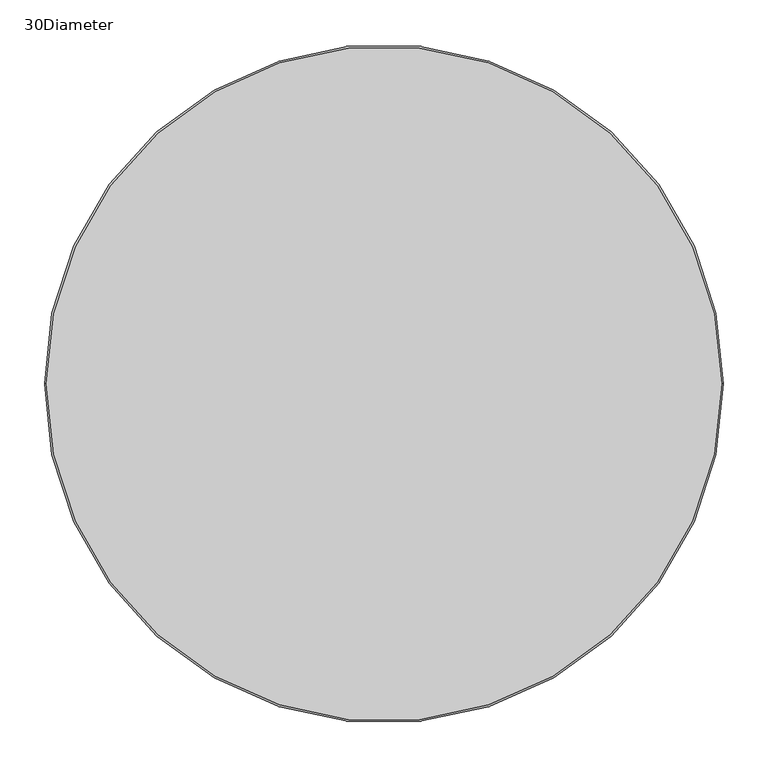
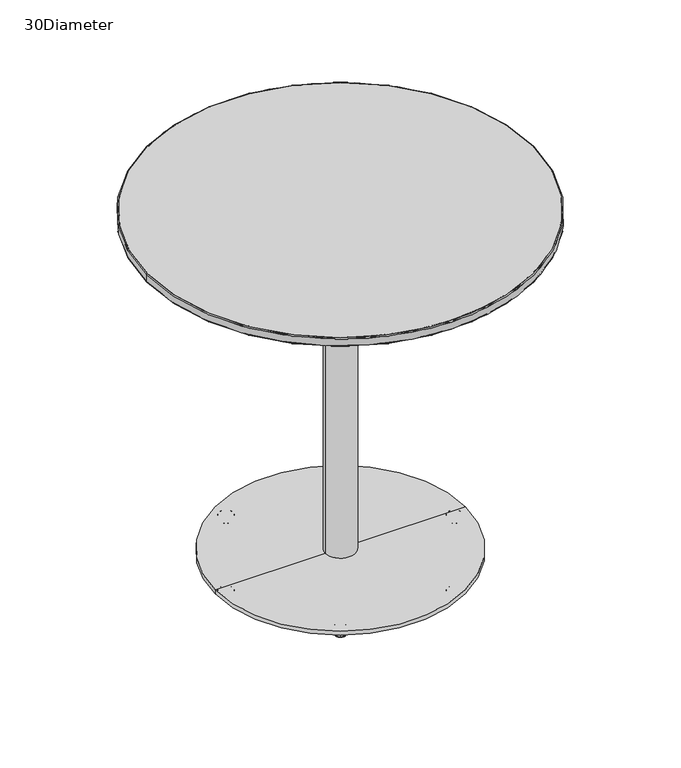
"""IFC4 building model written with IfcOpenShell, lengths in millimetres: furniture geometry, Coalesse_AM_Table_Conference_Montara650_WorkHeight_Round : 30Diameter."""

from ifc_helpers import new_model, si_unit, point, frame, origin, origin_with_axes, origin_2d, place, context, project, spatial, polyline, circle_curve, ellipse_curve, trimmed, segment, composite_curve, outline, extrude, source, transform, mapped, element, save
from ifc_brep_helpers import plane_surface, cylinder_surface, revolved_surface, advanced_brep


def furniture_30diameter_0b807904(model_context):
    return source(origin(), model_context, "Body", "SolidModel", [
        advanced_brep(
        [(-112.4946772, 194.8464965, 0.0), (-117.6867095, 203.8393602, 0.0), (-107.302645, 185.8536329, 0.0), (-118.0731448, 204.5086859, 0.5718943), (-106.9162096, 185.1843072, 0.5718943), (-119.6988534, 207.3244957, 11.2068005), (-105.290501, 182.3684973, 11.2068005), (-119.4053894, 206.8162011, 11.9999882), (-105.5839651, 182.8767919, 11.9999882), (-112.4946772, 194.8464965, 11.9999882)],
        [
            (0, 1),
            (1, 2, circle_curve(frame((-112.4946772, 194.8464965, 0.0), z_axis=(0.0, 0.0, -1.0), x_axis=(-0.5000000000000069, 0.8660254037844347, 0.0)), 10.3840645)),
            (2, 0),
            (2, 1, circle_curve(frame((-112.4946772, 194.8464965, 0.0), z_axis=(0.0, 0.0, -1.0), x_axis=(-0.5000000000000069, 0.8660254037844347, 0.0)), 10.3840645)),
            (1, 3, circle_curve(frame((-117.6867095, 203.8393602, 0.8081846), z_axis=(0.8660254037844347, 0.5000000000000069, 0.0), x_axis=(-0.5000000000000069, 0.8660254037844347, 0.0)), 0.8081846)),
            (3, 4, circle_curve(frame((-112.4946772, 194.8464965, 0.5718943), z_axis=(0.0, 0.0, -1.0), x_axis=(-0.5000000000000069, 0.8660254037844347, 0.0)), 11.1569353)),
            (4, 2, circle_curve(frame((-107.302645, 185.8536329, 0.8081846), z_axis=(0.866025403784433, 0.5000000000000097, 0.0), x_axis=(0.5000000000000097, -0.866025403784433, 0.0)), 0.8081846)),
            (4, 3, circle_curve(frame((-112.4946772, 194.8464965, 0.5718943), z_axis=(0.0, 0.0, -1.0), x_axis=(-0.5000000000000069, 0.8660254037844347, 0.0)), 11.1569353)),
            (3, 5),
            (5, 6, circle_curve(frame((-112.4946772, 194.8464965, 11.2068005), z_axis=(0.0, 0.0, -1.0), x_axis=(-0.5000000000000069, 0.8660254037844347, 0.0)), 14.4083524)),
            (6, 4),
            (6, 5, circle_curve(frame((-112.4946772, 194.8464965, 11.2068005), z_axis=(0.0, 0.0, -1.0), x_axis=(-0.5000000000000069, 0.8660254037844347, 0.0)), 14.4083524)),
            (5, 7, circle_curve(frame((-119.4053894, 206.8162011, 11.3862424), z_axis=(0.8660254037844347, 0.5000000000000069, 0.0), x_axis=(-0.5000000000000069, 0.8660254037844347, 0.0)), 0.6137458)),
            (7, 8, circle_curve(frame((-112.4946772, 194.8464965, 11.9999882), z_axis=(0.0, 0.0, -1.0), x_axis=(-0.5000000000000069, 0.8660254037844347, 0.0)), 13.8214243)),
            (8, 6, circle_curve(frame((-105.5839651, 182.8767919, 11.3862424), z_axis=(0.866025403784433, 0.5000000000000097, 0.0), x_axis=(0.5000000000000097, -0.866025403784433, 0.0)), 0.6137458)),
            (8, 7, circle_curve(frame((-112.4946772, 194.8464965, 11.9999882), z_axis=(0.0, 0.0, -1.0), x_axis=(-0.5000000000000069, 0.8660254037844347, 0.0)), 13.8214243)),
            (7, 9),
            (9, 8),
        ],
        [
            plane_surface(frame((-112.4946772, 194.8464965, 0.0), z_axis=(0.0, 0.0, -1.0), x_axis=(-0.5000000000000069, 0.8660254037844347, 0.0))),
            revolved_surface(trimmed(ellipse_curve(frame((-117.6867095, 203.8393602, 0.8081846), z_axis=(-0.8660254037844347, -0.5000000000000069, 0.0), x_axis=(-0.5000000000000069, 0.8660254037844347, 0.0)), 0.8081846, 0.8081846), [point((-118.0731448, 204.5086859, 0.5718943))], [point((-117.6867095, 203.8393602, 0.0))], True, "CARTESIAN"), (-112.4946772, 194.8464965, 12.2086845), (0.0, 0.0, -1.0)),
            revolved_surface(polyline([(-119.6988534, 207.3244957, 11.2068005), (-118.0731448, 204.5086859, 0.5718943)]), (-112.4946772, 194.8464965, 12.2086845), (0.0, 0.0, -1.0)),
            revolved_surface(trimmed(ellipse_curve(frame((-119.4053894, 206.8162011, 11.3862424), z_axis=(-0.8660254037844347, -0.5000000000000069, 0.0), x_axis=(-0.5000000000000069, 0.8660254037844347, 0.0)), 0.6137458, 0.6137458), [point((-119.4053894, 206.8162011, 11.9999882))], [point((-119.6988534, 207.3244957, 11.2068005))], True, "CARTESIAN"), (-112.4946772, 194.8464965, 12.2086845), (0.0, 0.0, -1.0)),
            plane_surface(frame((-112.4946772, 194.8464965, 11.9999882), z_axis=(0.0, 0.0, 1.0), x_axis=(-0.5000000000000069, 0.8660254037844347, 0.0))),
        ],
        [
            (0, [[1, 2, 3]]),
            (0, [[-3, 4, -1]]),
            (1, [[-2, 5, 6, 7]]),
            (1, [[-4, -7, 8, -5]]),
            (2, [[-6, 9, 10, 11]]),
            (2, [[-8, -11, 12, -9]]),
            (3, [[-10, 13, 14, 15]]),
            (3, [[-12, -15, 16, -13]]),
            (4, [[-14, 17, 18]]),
            (4, [[-16, -18, -17]]),
        ],
    ),
        advanced_brep(
        [(107.302645, -185.8536329, 0.0), (117.6867095, -203.8393602, 0.0), (112.4946772, -194.8464965, 0.0), (106.9162096, -185.1843072, 0.5718943), (118.0731448, -204.5086859, 0.5718943), (105.290501, -182.3684973, 11.2068005), (119.6988534, -207.3244957, 11.2068005), (105.5839651, -182.8767919, 11.9999882), (119.4053894, -206.8162011, 11.9999882), (112.4946772, -194.8464965, 11.9999882)],
        [
            (0, 1, circle_curve(frame((112.4946772, -194.8464965, 0.0), z_axis=(0.0, 0.0, -1.0), x_axis=(0.5000000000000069, -0.8660254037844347, 0.0)), 10.3840645)),
            (1, 2),
            (2, 0),
            (1, 0, circle_curve(frame((112.4946772, -194.8464965, 0.0), z_axis=(0.0, 0.0, -1.0), x_axis=(0.5000000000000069, -0.8660254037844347, 0.0)), 10.3840645)),
            (3, 4, circle_curve(frame((112.4946772, -194.8464965, 0.5718943), z_axis=(0.0, 0.0, -1.0), x_axis=(0.5000000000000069, -0.8660254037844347, 0.0)), 11.1569353)),
            (4, 1, circle_curve(frame((117.6867095, -203.8393602, 0.8081846), z_axis=(0.8660254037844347, 0.5000000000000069, 0.0), x_axis=(0.5000000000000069, -0.8660254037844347, 0.0)), 0.8081846)),
            (0, 3, circle_curve(frame((107.302645, -185.8536329, 0.8081846), z_axis=(0.8660254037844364, 0.5000000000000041, 0.0), x_axis=(-0.5000000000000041, 0.8660254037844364, 0.0)), 0.8081846)),
            (4, 3, circle_curve(frame((112.4946772, -194.8464965, 0.5718943), z_axis=(0.0, 0.0, -1.0), x_axis=(0.5000000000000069, -0.8660254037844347, 0.0)), 11.1569353)),
            (5, 6, circle_curve(frame((112.4946772, -194.8464965, 11.2068005), z_axis=(0.0, 0.0, -1.0), x_axis=(0.5000000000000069, -0.8660254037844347, 0.0)), 14.4083524)),
            (6, 4),
            (3, 5),
            (6, 5, circle_curve(frame((112.4946772, -194.8464965, 11.2068005), z_axis=(0.0, 0.0, -1.0), x_axis=(0.5000000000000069, -0.8660254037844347, 0.0)), 14.4083524)),
            (7, 8, circle_curve(frame((112.4946772, -194.8464965, 11.9999882), z_axis=(0.0, 0.0, -1.0), x_axis=(0.5000000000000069, -0.8660254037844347, 0.0)), 13.8214243)),
            (8, 6, circle_curve(frame((119.4053894, -206.8162011, 11.3862424), z_axis=(0.8660254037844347, 0.5000000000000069, 0.0), x_axis=(0.5000000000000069, -0.8660254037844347, 0.0)), 0.6137458)),
            (5, 7, circle_curve(frame((105.5839651, -182.8767919, 11.3862424), z_axis=(0.8660254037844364, 0.5000000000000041, 0.0), x_axis=(-0.5000000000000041, 0.8660254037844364, 0.0)), 0.6137458)),
            (8, 7, circle_curve(frame((112.4946772, -194.8464965, 11.9999882), z_axis=(0.0, 0.0, -1.0), x_axis=(0.5000000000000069, -0.8660254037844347, 0.0)), 13.8214243)),
            (9, 8),
            (7, 9),
        ],
        [
            plane_surface(frame((112.4946772, -194.8464965, 0.0), z_axis=(0.0, 0.0, -1.0), x_axis=(0.5000000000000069, -0.8660254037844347, 0.0))),
            revolved_surface(trimmed(ellipse_curve(frame((117.6867095, -203.8393602, 0.8081846), z_axis=(-0.8660254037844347, -0.5000000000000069, 0.0), x_axis=(0.5000000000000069, -0.8660254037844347, 0.0)), 0.8081846, 0.8081846), [point((117.6867095, -203.8393602, 0.0))], [point((118.0731448, -204.5086859, 0.5718943))], True, "CARTESIAN"), (112.4946772, -194.8464965, 12.2086845), (0.0, 0.0, 1.0)),
            revolved_surface(polyline([(118.0731448, -204.5086859, 0.5718943), (119.6988534, -207.3244957, 11.2068005)]), (112.4946772, -194.8464965, 12.2086845), (0.0, 0.0, 1.0)),
            revolved_surface(trimmed(ellipse_curve(frame((119.4053894, -206.8162011, 11.3862424), z_axis=(-0.8660254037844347, -0.5000000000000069, 0.0), x_axis=(0.5000000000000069, -0.8660254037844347, 0.0)), 0.6137458, 0.6137458), [point((119.6988534, -207.3244957, 11.2068005))], [point((119.4053894, -206.8162011, 11.9999882))], True, "CARTESIAN"), (112.4946772, -194.8464965, 12.2086845), (0.0, 0.0, 1.0)),
            plane_surface(frame((112.4946772, -194.8464965, 11.9999882), z_axis=(0.0, 0.0, 1.0), x_axis=(0.5000000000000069, -0.8660254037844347, 0.0))),
        ],
        [
            (0, [[1, 2, 3]]),
            (0, [[4, -3, -2]]),
            (1, [[5, 6, -1, 7]]),
            (1, [[8, -7, -4, -6]]),
            (2, [[9, 10, -5, 11]]),
            (2, [[12, -11, -8, -10]]),
            (3, [[13, 14, -9, 15]]),
            (3, [[16, -15, -12, -14]]),
            (4, [[17, -13, 18]]),
            (4, [[-18, -16, -17]]),
        ],
    ),
        advanced_brep(
        [(107.302645, 185.8536329, 0.0), (117.6867095, 203.8393602, 0.0), (112.4946772, 194.8464965, 0.0), (106.9162096, 185.1843072, 0.5718943), (118.0731448, 204.5086859, 0.5718943), (105.290501, 182.3684973, 11.2068005), (119.6988534, 207.3244957, 11.2068005), (105.5839651, 182.8767919, 11.9999882), (119.4053894, 206.8162011, 11.9999882), (112.4946772, 194.8464965, 11.9999882)],
        [
            (0, 1, circle_curve(frame((112.4946772, 194.8464965, 0.0), z_axis=(0.0, 0.0, -1.0), x_axis=(0.5000000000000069, 0.8660254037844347, 0.0)), 10.3840645)),
            (1, 2),
            (2, 0),
            (1, 0, circle_curve(frame((112.4946772, 194.8464965, 0.0), z_axis=(0.0, 0.0, -1.0), x_axis=(0.5000000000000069, 0.8660254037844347, 0.0)), 10.3840645)),
            (3, 4, circle_curve(frame((112.4946772, 194.8464965, 0.5718943), z_axis=(0.0, 0.0, -1.0), x_axis=(0.5000000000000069, 0.8660254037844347, 0.0)), 11.1569353)),
            (4, 1, circle_curve(frame((117.6867095, 203.8393602, 0.8081846), z_axis=(-0.8660254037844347, 0.5000000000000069, 0.0), x_axis=(0.5000000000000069, 0.8660254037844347, 0.0)), 0.8081846)),
            (0, 3, circle_curve(frame((107.302645, 185.8536329, 0.8081846), z_axis=(-0.866025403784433, 0.5000000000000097, 0.0), x_axis=(-0.5000000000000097, -0.866025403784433, 0.0)), 0.8081846)),
            (4, 3, circle_curve(frame((112.4946772, 194.8464965, 0.5718943), z_axis=(0.0, 0.0, -1.0), x_axis=(0.5000000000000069, 0.8660254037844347, 0.0)), 11.1569353)),
            (5, 6, circle_curve(frame((112.4946772, 194.8464965, 11.2068005), z_axis=(0.0, 0.0, -1.0), x_axis=(0.5000000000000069, 0.8660254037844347, 0.0)), 14.4083524)),
            (6, 4),
            (3, 5),
            (6, 5, circle_curve(frame((112.4946772, 194.8464965, 11.2068005), z_axis=(0.0, 0.0, -1.0), x_axis=(0.5000000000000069, 0.8660254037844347, 0.0)), 14.4083524)),
            (7, 8, circle_curve(frame((112.4946772, 194.8464965, 11.9999882), z_axis=(0.0, 0.0, -1.0), x_axis=(0.5000000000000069, 0.8660254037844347, 0.0)), 13.8214243)),
            (8, 6, circle_curve(frame((119.4053894, 206.8162011, 11.3862424), z_axis=(-0.8660254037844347, 0.5000000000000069, 0.0), x_axis=(0.5000000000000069, 0.8660254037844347, 0.0)), 0.6137458)),
            (5, 7, circle_curve(frame((105.5839651, 182.8767919, 11.3862424), z_axis=(-0.866025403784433, 0.5000000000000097, 0.0), x_axis=(-0.5000000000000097, -0.866025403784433, 0.0)), 0.6137458)),
            (8, 7, circle_curve(frame((112.4946772, 194.8464965, 11.9999882), z_axis=(0.0, 0.0, -1.0), x_axis=(0.5000000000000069, 0.8660254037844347, 0.0)), 13.8214243)),
            (9, 8),
            (7, 9),
        ],
        [
            plane_surface(frame((112.4946772, 194.8464965, 0.0), z_axis=(0.0, 0.0, -1.0), x_axis=(0.5000000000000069, 0.8660254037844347, 0.0))),
            revolved_surface(trimmed(ellipse_curve(frame((117.6867095, 203.8393602, 0.8081846), z_axis=(0.8660254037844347, -0.5000000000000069, 0.0), x_axis=(0.5000000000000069, 0.8660254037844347, 0.0)), 0.8081846, 0.8081846), [point((117.6867095, 203.8393602, 0.0))], [point((118.0731448, 204.5086859, 0.5718943))], True, "CARTESIAN"), (112.4946772, 194.8464965, 12.2086845), (0.0, 0.0, 1.0)),
            revolved_surface(polyline([(118.0731448, 204.5086859, 0.5718943), (119.6988534, 207.3244957, 11.2068005)]), (112.4946772, 194.8464965, 12.2086845), (0.0, 0.0, 1.0)),
            revolved_surface(trimmed(ellipse_curve(frame((119.4053894, 206.8162011, 11.3862424), z_axis=(0.8660254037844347, -0.5000000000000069, 0.0), x_axis=(0.5000000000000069, 0.8660254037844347, 0.0)), 0.6137458, 0.6137458), [point((119.6988534, 207.3244957, 11.2068005))], [point((119.4053894, 206.8162011, 11.9999882))], True, "CARTESIAN"), (112.4946772, 194.8464965, 12.2086845), (0.0, 0.0, 1.0)),
            plane_surface(frame((112.4946772, 194.8464965, 11.9999882), z_axis=(0.0, 0.0, 1.0), x_axis=(0.5000000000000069, 0.8660254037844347, 0.0))),
        ],
        [
            (0, [[1, 2, 3]]),
            (0, [[4, -3, -2]]),
            (1, [[5, 6, -1, 7]]),
            (1, [[8, -7, -4, -6]]),
            (2, [[9, 10, -5, 11]]),
            (2, [[12, -11, -8, -10]]),
            (3, [[13, 14, -9, 15]]),
            (3, [[16, -15, -12, -14]]),
            (4, [[17, -13, 18]]),
            (4, [[-18, -16, -17]]),
        ],
    ),
        advanced_brep(
        [(-112.4946772, -194.8464965, 0.0), (-117.6867095, -203.8393602, 0.0), (-107.302645, -185.8536329, 0.0), (-118.0731448, -204.5086859, 0.5718943), (-106.9162096, -185.1843072, 0.5718943), (-119.6988534, -207.3244957, 11.2068005), (-105.290501, -182.3684973, 11.2068005), (-119.4053894, -206.8162011, 11.9999882), (-105.5839651, -182.8767919, 11.9999882), (-112.4946772, -194.8464965, 11.9999882)],
        [
            (0, 1),
            (1, 2, circle_curve(frame((-112.4946772, -194.8464965, 0.0), z_axis=(0.0, 0.0, -1.0), x_axis=(-0.5000000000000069, -0.8660254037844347, 0.0)), 10.3840645)),
            (2, 0),
            (2, 1, circle_curve(frame((-112.4946772, -194.8464965, 0.0), z_axis=(0.0, 0.0, -1.0), x_axis=(-0.5000000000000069, -0.8660254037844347, 0.0)), 10.3840645)),
            (1, 3, circle_curve(frame((-117.6867095, -203.8393602, 0.8081846), z_axis=(-0.8660254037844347, 0.5000000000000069, 0.0), x_axis=(-0.5000000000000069, -0.8660254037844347, 0.0)), 0.8081846)),
            (3, 4, circle_curve(frame((-112.4946772, -194.8464965, 0.5718943), z_axis=(0.0, 0.0, -1.0), x_axis=(-0.5000000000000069, -0.8660254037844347, 0.0)), 11.1569353)),
            (4, 2, circle_curve(frame((-107.302645, -185.8536329, 0.8081846), z_axis=(-0.8660254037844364, 0.5000000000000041, 0.0), x_axis=(0.5000000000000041, 0.8660254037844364, 0.0)), 0.8081846)),
            (4, 3, circle_curve(frame((-112.4946772, -194.8464965, 0.5718943), z_axis=(0.0, 0.0, -1.0), x_axis=(-0.5000000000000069, -0.8660254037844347, 0.0)), 11.1569353)),
            (3, 5),
            (5, 6, circle_curve(frame((-112.4946772, -194.8464965, 11.2068005), z_axis=(0.0, 0.0, -1.0), x_axis=(-0.5000000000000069, -0.8660254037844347, 0.0)), 14.4083524)),
            (6, 4),
            (6, 5, circle_curve(frame((-112.4946772, -194.8464965, 11.2068005), z_axis=(0.0, 0.0, -1.0), x_axis=(-0.5000000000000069, -0.8660254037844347, 0.0)), 14.4083524)),
            (5, 7, circle_curve(frame((-119.4053894, -206.8162011, 11.3862424), z_axis=(-0.8660254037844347, 0.5000000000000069, 0.0), x_axis=(-0.5000000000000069, -0.8660254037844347, 0.0)), 0.6137458)),
            (7, 8, circle_curve(frame((-112.4946772, -194.8464965, 11.9999882), z_axis=(0.0, 0.0, -1.0), x_axis=(-0.5000000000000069, -0.8660254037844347, 0.0)), 13.8214243)),
            (8, 6, circle_curve(frame((-105.5839651, -182.8767919, 11.3862424), z_axis=(-0.8660254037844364, 0.5000000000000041, 0.0), x_axis=(0.5000000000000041, 0.8660254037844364, 0.0)), 0.6137458)),
            (8, 7, circle_curve(frame((-112.4946772, -194.8464965, 11.9999882), z_axis=(0.0, 0.0, -1.0), x_axis=(-0.5000000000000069, -0.8660254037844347, 0.0)), 13.8214243)),
            (7, 9),
            (9, 8),
        ],
        [
            plane_surface(frame((-112.4946772, -194.8464965, 0.0), z_axis=(0.0, 0.0, -1.0), x_axis=(-0.5000000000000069, -0.8660254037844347, 0.0))),
            revolved_surface(trimmed(ellipse_curve(frame((-117.6867095, -203.8393602, 0.8081846), z_axis=(0.8660254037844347, -0.5000000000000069, 0.0), x_axis=(-0.5000000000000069, -0.8660254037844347, 0.0)), 0.8081846, 0.8081846), [point((-118.0731448, -204.5086859, 0.5718943))], [point((-117.6867095, -203.8393602, 0.0))], True, "CARTESIAN"), (-112.4946772, -194.8464965, 12.2086845), (0.0, 0.0, -1.0)),
            revolved_surface(polyline([(-119.6988534, -207.3244957, 11.2068005), (-118.0731448, -204.5086859, 0.5718943)]), (-112.4946772, -194.8464965, 12.2086845), (0.0, 0.0, -1.0)),
            revolved_surface(trimmed(ellipse_curve(frame((-119.4053894, -206.8162011, 11.3862424), z_axis=(0.8660254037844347, -0.5000000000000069, 0.0), x_axis=(-0.5000000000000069, -0.8660254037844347, 0.0)), 0.6137458, 0.6137458), [point((-119.4053894, -206.8162011, 11.9999882))], [point((-119.6988534, -207.3244957, 11.2068005))], True, "CARTESIAN"), (-112.4946772, -194.8464965, 12.2086845), (0.0, 0.0, -1.0)),
            plane_surface(frame((-112.4946772, -194.8464965, 11.9999882), z_axis=(0.0, 0.0, 1.0), x_axis=(-0.5000000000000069, -0.8660254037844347, 0.0))),
        ],
        [
            (0, [[1, 2, 3]]),
            (0, [[-3, 4, -1]]),
            (1, [[-2, 5, 6, 7]]),
            (1, [[-4, -7, 8, -5]]),
            (2, [[-6, 9, 10, 11]]),
            (2, [[-8, -11, 12, -9]]),
            (3, [[-10, 13, 14, 15]]),
            (3, [[-12, -15, 16, -13]]),
            (4, [[-14, 17, 18]]),
            (4, [[-16, -18, -17]]),
        ],
    ),
        advanced_brep(
        [(214.6052899, 0.0, 0.0), (235.3734189, 0.0, 0.0), (224.9893544, 0.0, 0.0), (213.8324192, 0.0, 0.5718943), (236.1462897, 0.0, 0.5718943), (210.5810021, 0.0, 11.2068005), (239.3977068, 0.0, 11.2068005), (211.1679301, 0.0, 11.9999882), (238.8107788, 0.0, 11.9999882), (224.9893544, 0.0, 11.9999882)],
        [
            (0, 1, circle_curve(frame((224.9893544, 0.0, 0.0), z_axis=(0.0, 0.0, -1.0), x_axis=(1.0, 0.0, 0.0)), 10.3840645)),
            (1, 2),
            (2, 0),
            (1, 0, circle_curve(frame((224.9893544, 0.0, 0.0), z_axis=(0.0, 0.0, -1.0), x_axis=(1.0, 0.0, 0.0)), 10.3840645)),
            (3, 4, circle_curve(frame((224.9893544, 0.0, 0.5718943), z_axis=(0.0, 0.0, -1.0), x_axis=(1.0, 0.0, 0.0)), 11.1569353)),
            (4, 1, circle_curve(frame((235.3734189, 0.0, 0.8081846), z_axis=(0.0, 1.0, 0.0), x_axis=(1.0, 0.0, 0.0)), 0.8081846)),
            (0, 3, circle_curve(frame((214.6052899, 0.0, 0.8081846), z_axis=(0.0, 1.0, 0.0), x_axis=(-1.0, 0.0, 0.0)), 0.8081846)),
            (4, 3, circle_curve(frame((224.9893544, 0.0, 0.5718943), z_axis=(0.0, 0.0, -1.0), x_axis=(1.0, 0.0, 0.0)), 11.1569353)),
            (5, 6, circle_curve(frame((224.9893544, 0.0, 11.2068005), z_axis=(0.0, 0.0, -1.0), x_axis=(1.0, 0.0, 0.0)), 14.4083524)),
            (6, 4),
            (3, 5),
            (6, 5, circle_curve(frame((224.9893544, 0.0, 11.2068005), z_axis=(0.0, 0.0, -1.0), x_axis=(1.0, 0.0, 0.0)), 14.4083524)),
            (7, 8, circle_curve(frame((224.9893544, 0.0, 11.9999882), z_axis=(0.0, 0.0, -1.0), x_axis=(1.0, 0.0, 0.0)), 13.8214243)),
            (8, 6, circle_curve(frame((238.8107788, 0.0, 11.3862424), z_axis=(0.0, 1.0, 0.0), x_axis=(1.0, 0.0, 0.0)), 0.6137458)),
            (5, 7, circle_curve(frame((211.1679301, 0.0, 11.3862424), z_axis=(0.0, 1.0, 0.0), x_axis=(-1.0, 0.0, 0.0)), 0.6137458)),
            (8, 7, circle_curve(frame((224.9893544, 0.0, 11.9999882), z_axis=(0.0, 0.0, -1.0), x_axis=(1.0, 0.0, 0.0)), 13.8214243)),
            (9, 8),
            (7, 9),
        ],
        [
            plane_surface(frame((224.9893544, 0.0, 0.0), z_axis=(0.0, 0.0, -1.0), x_axis=(1.0, 0.0, 0.0))),
            revolved_surface(trimmed(ellipse_curve(frame((235.3734189, 0.0, 0.8081846), z_axis=(0.0, -1.0, 0.0), x_axis=(1.0, 0.0, 0.0)), 0.8081846, 0.8081846), [point((235.3734189, 0.0, 0.0))], [point((236.1462897, 0.0, 0.5718943))], True, "CARTESIAN"), (224.9893544, 0.0, 12.2086845), (0.0, 0.0, 1.0)),
            revolved_surface(polyline([(236.1462897, 0.0, 0.5718943), (239.3977068, 0.0, 11.2068005)]), (224.9893544, 0.0, 12.2086845), (0.0, 0.0, 1.0)),
            revolved_surface(trimmed(ellipse_curve(frame((238.8107788, 0.0, 11.3862424), z_axis=(0.0, -1.0, 0.0), x_axis=(1.0, 0.0, 0.0)), 0.6137458, 0.6137458), [point((239.3977068, 0.0, 11.2068005))], [point((238.8107788, 0.0, 11.9999882))], True, "CARTESIAN"), (224.9893544, 0.0, 12.2086845), (0.0, 0.0, 1.0)),
            plane_surface(frame((224.9893544, 0.0, 11.9999882), z_axis=(0.0, 0.0, 1.0), x_axis=(1.0, 0.0, 0.0))),
        ],
        [
            (0, [[1, 2, 3]]),
            (0, [[4, -3, -2]]),
            (1, [[5, 6, -1, 7]]),
            (1, [[8, -7, -4, -6]]),
            (2, [[9, 10, -5, 11]]),
            (2, [[12, -11, -8, -10]]),
            (3, [[13, 14, -9, 15]]),
            (3, [[16, -15, -12, -14]]),
            (4, [[17, -13, 18]]),
            (4, [[-18, -16, -17]]),
        ],
    ),
        advanced_brep(
        [(-334.264, 0.0, 693.930027), (334.264, 0.0, 693.930027), (-378.968, 0.0, 706.195891), (378.968, 0.0, 706.195891)],
        [
            (0, 1, circle_curve(frame((0.0, 0.0, 693.930027), z_axis=(0.0, 0.0, -1.0), x_axis=(-1.0, 0.0, 0.0)), 334.264)),
            (1, 0, circle_curve(frame((0.0, 0.0, 693.930027), z_axis=(0.0, 0.0, -1.0), x_axis=(1.0, 0.0, 0.0)), 334.264)),
            (2, 3, circle_curve(frame((0.0, 0.0, 706.195891), z_axis=(0.0, 0.0, 1.0), x_axis=(1.0, 0.0, 0.0)), 378.968)),
            (3, 2, circle_curve(frame((0.0, 0.0, 706.195891), z_axis=(0.0, 0.0, 1.0), x_axis=(-1.0, 0.0, 0.0)), 378.968)),
            (2, 0),
            (1, 3),
        ],
        [
            plane_surface(frame((0.0, 0.0, 693.930027), z_axis=(0.0, 0.0, -1.0), x_axis=(0.0, -1.0, 0.0))),
            plane_surface(frame((0.0, 0.0, 706.195891), z_axis=(0.0, 0.0, 1.0), x_axis=(0.0, -1.0, 0.0))),
            revolved_surface(polyline([(334.26399988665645, 0.0, 693.930027), (378.968, 0.0, 706.195891)]), (0.0, 0.0, 602.2148169), (0.0, 0.0, 1.0)),
            revolved_surface(polyline([(-334.26399988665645, 0.0, 693.930027), (-378.968, 0.0, 706.195891)]), (0.0, 0.0, 602.2148169), (0.0, 0.0, 1.0)),
        ],
        [
            (0, [[1, 2]]),
            (1, [[3, 4]]),
            (2, [[-3, 5, -2, 6]]),
            (3, [[-4, -6, -1, -5]]),
        ],
    ),
        extrude(outline(composite_curve([segment(trimmed(circle_curve(origin_2d(), 378.968), [point((-378.968, 0.0))], [point((378.968, 0.0))], False, "CARTESIAN"), True, "CONTINUOUS"), segment(trimmed(circle_curve(origin_2d(), 378.968), [point((378.968, 0.0))], [point((-378.968, 0.0))], False, "CARTESIAN"), True, "CONTINUOUS")], self_intersect=False)), frame((0.0, 0.0, 706.195891), z_axis=(0.0, 0.0, 1.0), x_axis=(1.0, 0.0, 0.0)), (0.0, 0.0, 1.0), 17.704109),
        advanced_brep(
        [(-224.9893544, 0.0, 0.0), (-235.3734189, 0.0, 0.0), (-214.6052899, 0.0, 0.0), (-236.1462897, 0.0, 0.5718943), (-213.8324192, 0.0, 0.5718943), (-239.3977068, 0.0, 11.2068005), (-210.5810021, 0.0, 11.2068005), (-238.8107788, 0.0, 11.9999882), (-211.1679301, 0.0, 11.9999882), (-224.9893544, 0.0, 11.9999882)],
        [
            (0, 1),
            (1, 2, circle_curve(frame((-224.9893544, 0.0, 0.0), z_axis=(0.0, 0.0, -1.0), x_axis=(-1.0, 0.0, 0.0)), 10.3840645)),
            (2, 0),
            (2, 1, circle_curve(frame((-224.9893544, 0.0, 0.0), z_axis=(0.0, 0.0, -1.0), x_axis=(-1.0, 0.0, 0.0)), 10.3840645)),
            (1, 3, circle_curve(frame((-235.3734189, 0.0, 0.8081846), z_axis=(0.0, 1.0, 0.0), x_axis=(-1.0, 0.0, 0.0)), 0.8081846)),
            (3, 4, circle_curve(frame((-224.9893544, 0.0, 0.5718943), z_axis=(0.0, 0.0, -1.0), x_axis=(-1.0, 0.0, 0.0)), 11.1569353)),
            (4, 2, circle_curve(frame((-214.6052899, 0.0, 0.8081846), z_axis=(0.0, 1.0, 0.0), x_axis=(1.0, 0.0, 0.0)), 0.8081846)),
            (4, 3, circle_curve(frame((-224.9893544, 0.0, 0.5718943), z_axis=(0.0, 0.0, -1.0), x_axis=(-1.0, 0.0, 0.0)), 11.1569353)),
            (3, 5),
            (5, 6, circle_curve(frame((-224.9893544, 0.0, 11.2068005), z_axis=(0.0, 0.0, -1.0), x_axis=(-1.0, 0.0, 0.0)), 14.4083524)),
            (6, 4),
            (6, 5, circle_curve(frame((-224.9893544, 0.0, 11.2068005), z_axis=(0.0, 0.0, -1.0), x_axis=(-1.0, 0.0, 0.0)), 14.4083524)),
            (5, 7, circle_curve(frame((-238.8107788, 0.0, 11.3862424), z_axis=(0.0, 1.0, 0.0), x_axis=(-1.0, 0.0, 0.0)), 0.6137458)),
            (7, 8, circle_curve(frame((-224.9893544, 0.0, 11.9999882), z_axis=(0.0, 0.0, -1.0), x_axis=(-1.0, 0.0, 0.0)), 13.8214243)),
            (8, 6, circle_curve(frame((-211.1679301, 0.0, 11.3862424), z_axis=(0.0, 1.0, 0.0), x_axis=(1.0, 0.0, 0.0)), 0.6137458)),
            (8, 7, circle_curve(frame((-224.9893544, 0.0, 11.9999882), z_axis=(0.0, 0.0, -1.0), x_axis=(-1.0, 0.0, 0.0)), 13.8214243)),
            (7, 9),
            (9, 8),
        ],
        [
            plane_surface(frame((-224.9893544, 0.0, 0.0), z_axis=(0.0, 0.0, -1.0), x_axis=(-1.0, 0.0, 0.0))),
            revolved_surface(trimmed(ellipse_curve(frame((-235.3734189, 0.0, 0.8081846), z_axis=(0.0, -1.0, 0.0), x_axis=(-1.0, 0.0, 0.0)), 0.8081846, 0.8081846), [point((-236.1462897, 0.0, 0.5718943))], [point((-235.3734189, 0.0, 0.0))], True, "CARTESIAN"), (-224.9893544, 0.0, 12.2086845), (0.0, 0.0, -1.0)),
            revolved_surface(polyline([(-239.3977068, 0.0, 11.2068005), (-236.1462897, 0.0, 0.5718943)]), (-224.9893544, 0.0, 12.2086845), (0.0, 0.0, -1.0)),
            revolved_surface(trimmed(ellipse_curve(frame((-238.8107788, 0.0, 11.3862424), z_axis=(0.0, -1.0, 0.0), x_axis=(-1.0, 0.0, 0.0)), 0.6137458, 0.6137458), [point((-238.8107788, 0.0, 11.9999882))], [point((-239.3977068, 0.0, 11.2068005))], True, "CARTESIAN"), (-224.9893544, 0.0, 12.2086845), (0.0, 0.0, -1.0)),
            plane_surface(frame((-224.9893544, 0.0, 11.9999882), z_axis=(0.0, 0.0, 1.0), x_axis=(-1.0, 0.0, 0.0))),
        ],
        [
            (0, [[1, 2, 3]]),
            (0, [[-3, 4, -1]]),
            (1, [[-2, 5, 6, 7]]),
            (1, [[-4, -7, 8, -5]]),
            (2, [[-6, 9, 10, 11]]),
            (2, [[-8, -11, 12, -9]]),
            (3, [[-10, 13, 14, 15]]),
            (3, [[-12, -15, 16, -13]]),
            (4, [[-14, 17, 18]]),
            (4, [[-16, -18, -17]]),
        ],
    ),
        advanced_brep(
        [(381.0438665, 0.0, 708.1278467), (-381.0438665, 0.0, 708.1278467), (-378.968, 0.0, 706.195891), (378.968, 0.0, 706.195891), (381.0438665, 0.0, 721.8999283), (-381.0438665, 0.0, 721.8999283), (378.968, 0.0, 723.9), (-378.968, 0.0, 723.9)],
        [
            (0, 1, circle_curve(frame((0.0, 0.0, 708.1278467), z_axis=(0.0, 0.0, -1.0), x_axis=(-1.0, 0.0, 0.0)), 381.0438665)),
            (1, 2, circle_curve(frame((-379.1069224, 0.0, 708.1278467), z_axis=(0.0, -1.0, 0.0), x_axis=(1.0, 0.0, 0.0)), 1.9369441)),
            (2, 3, circle_curve(frame((0.0, 0.0, 706.195891), z_axis=(0.0, 0.0, 1.0), x_axis=(-1.0, 0.0, 0.0)), 378.968)),
            (3, 0, circle_curve(frame((379.1069224, 0.0, 708.1278467), z_axis=(0.0, -1.0, 0.0), x_axis=(-1.0, 0.0, 0.0)), 1.9369441)),
            (4, 5, circle_curve(frame((0.0, 0.0, 721.8999283), z_axis=(0.0, 0.0, -1.0), x_axis=(-1.0, 0.0, 0.0)), 381.0438665)),
            (5, 1),
            (0, 4),
            (6, 7, circle_curve(frame((0.0, 0.0, 723.9), z_axis=(0.0, 0.0, -1.0), x_axis=(-1.0, 0.0, 0.0)), 378.968)),
            (7, 5, circle_curve(frame((-379.0424111, 0.0, 721.8999283), z_axis=(0.0, -1.0, 0.0), x_axis=(1.0, 0.0, 0.0)), 2.0014554)),
            (4, 6, circle_curve(frame((379.0424111, 0.0, 721.8999283), z_axis=(0.0, -1.0, 0.0), x_axis=(-1.0, 0.0, 0.0)), 2.0014554)),
            (2, 7),
            (6, 3),
            (1, 0, circle_curve(frame((0.0, 0.0, 708.1278467), z_axis=(0.0, 0.0, -1.0), x_axis=(1.0, 0.0, 0.0)), 381.0438665)),
            (3, 2, circle_curve(frame((0.0, 0.0, 706.195891), z_axis=(0.0, 0.0, 1.0), x_axis=(1.0, 0.0, 0.0)), 378.968)),
            (5, 4, circle_curve(frame((0.0, 0.0, 721.8999283), z_axis=(0.0, 0.0, -1.0), x_axis=(1.0, 0.0, 0.0)), 381.0438665)),
            (7, 6, circle_curve(frame((0.0, 0.0, 723.9), z_axis=(0.0, 0.0, -1.0), x_axis=(1.0, 0.0, 0.0)), 378.968)),
        ],
        [
            revolved_surface(trimmed(ellipse_curve(frame((-379.1069224, 0.0, 708.1278467), z_axis=(0.0, 1.0, 0.0), x_axis=(1.0, 0.0, 0.0)), 1.9369441, 1.9369441), [point((-378.968, 0.0, 706.195891))], [point((-381.0438665, 0.0, 708.1278467))], True, "CARTESIAN"), (0.0, 0.0, 0.0), (0.0, 0.0, 1.0)),
            cylinder_surface(frame((0.0, 0.0, 0.0), z_axis=(0.0, 0.0, 1.0), x_axis=(-1.0, 0.0, 0.0)), 381.0438665),
            revolved_surface(trimmed(ellipse_curve(frame((-379.0424111, 0.0, 721.8999283), z_axis=(0.0, 1.0, 0.0), x_axis=(1.0, 0.0, 0.0)), 2.0014554, 2.0014554), [point((-381.0438665, 0.0, 721.8999283))], [point((-378.968, 0.0, 723.9))], True, "CARTESIAN"), (0.0, 0.0, 0.0), (0.0, 0.0, 1.0)),
            revolved_surface(polyline([(-378.968, 0.0, 723.9), (-378.968, 0.0, 706.195891)]), (0.0, 0.0, 0.0), (0.0, 0.0, 1.0)),
            revolved_surface(trimmed(ellipse_curve(frame((379.1069224, 0.0, 708.1278467), z_axis=(0.0, -1.0, 0.0), x_axis=(-1.0, 0.0, 0.0)), 1.9369441, 1.9369441), [point((378.968, 0.0, 706.195891))], [point((381.0438665, 0.0, 708.1278467))], True, "CARTESIAN"), (0.0, 0.0, 0.0), (0.0, 0.0, 1.0)),
            cylinder_surface(origin_with_axes(), 381.0438665),
            revolved_surface(trimmed(ellipse_curve(frame((379.0424111, 0.0, 721.8999283), z_axis=(0.0, -1.0, 0.0), x_axis=(-1.0, 0.0, 0.0)), 2.0014554, 2.0014554), [point((381.0438665, 0.0, 721.8999283))], [point((378.968, 0.0, 723.9))], True, "CARTESIAN"), (0.0, 0.0, 0.0), (0.0, 0.0, 1.0)),
            revolved_surface(polyline([(378.968, 0.0, 723.9), (378.968, 0.0, 706.195891)]), (0.0, 0.0, 0.0), (0.0, 0.0, 1.0)),
        ],
        [
            (0, [[1, 2, 3, 4]]),
            (1, [[5, 6, -1, 7]]),
            (2, [[8, 9, -5, 10]]),
            (3, [[-3, 11, -8, 12]]),
            (4, [[13, -4, 14, -2]]),
            (5, [[15, -7, -13, -6]]),
            (6, [[16, -10, -15, -9]]),
            (7, [[-14, -12, -16, -11]]),
        ],
    ),
        advanced_brep(
        [(131.6004101, 0.0, 690.755027), (-131.6004101, 0.0, 690.755027), (-176.1626132, 0.0, 690.755027), (176.1626132, 0.0, 690.755027), (121.0488662, 0.0, 689.6460151), (-121.0488662, 0.0, 689.6460151), (48.7461809, 0.0, 674.9837029), (-48.7461809, 0.0, 674.9837029), (37.412985, 0.0, 674.9837029), (-37.412985, 0.0, 674.9837029), (29.5495828, 0.0, 19.9999965), (-29.5495828, 0.0, 19.9999965), (-29.5495828, 0.0, 686.7852036), (29.5495828, 0.0, 686.7852036), (246.3799842, 0.0, 19.9999965), (-246.3799842, 0.0, 19.9999965), (246.3799842, 0.0, 11.9999882), (-246.3799842, 0.0, 11.9999882), (0.0, 0.0, 11.9999882), (176.1626132, 0.0, 693.930027), (-176.1626132, 0.0, 693.930027), (0.0, 0.0, 693.930027), (33.3511087, 0.0, 676.4383874), (-33.3511087, 0.0, 676.4383874), (31.712334, 0.0, 686.7852036), (-31.712334, 0.0, 686.7852036)],
        [
            (0, 1, circle_curve(frame((0.0, 0.0, 690.755027), z_axis=(0.0, 0.0, 1.0), x_axis=(-1.0, 0.0, 0.0)), 131.6004101)),
            (1, 2),
            (2, 3, circle_curve(frame((0.0, 0.0, 690.755027), z_axis=(0.0, 0.0, -1.0), x_axis=(-1.0, 0.0, 0.0)), 176.1626132)),
            (3, 0),
            (1, 0, circle_curve(frame((0.0, 0.0, 690.755027), z_axis=(0.0, 0.0, 1.0), x_axis=(-1.0, 0.0, 0.0)), 131.6004101)),
            (3, 2, circle_curve(frame((0.0, 0.0, 690.755027), z_axis=(0.0, 0.0, -1.0), x_axis=(-1.0, 0.0, 0.0)), 176.1626132)),
            (4, 5, circle_curve(frame((0.0, 0.0, 689.6460151), z_axis=(0.0, 0.0, 1.0), x_axis=(-1.0, 0.0, 0.0)), 121.0488662)),
            (5, 1),
            (0, 4),
            (5, 4, circle_curve(frame((0.0, 0.0, 689.6460151), z_axis=(0.0, 0.0, 1.0), x_axis=(-1.0, 0.0, 0.0)), 121.0488662)),
            (6, 7, circle_curve(frame((0.0, 0.0, 674.9837029), z_axis=(0.0, 0.0, 1.0), x_axis=(-1.0, 0.0, 0.0)), 48.7461809)),
            (7, 5),
            (4, 6),
            (7, 6, circle_curve(frame((0.0, 0.0, 674.9837029), z_axis=(0.0, 0.0, 1.0), x_axis=(-1.0, 0.0, 0.0)), 48.7461809)),
            (8, 9, circle_curve(frame((0.0, 0.0, 674.9837029), z_axis=(0.0, 0.0, 1.0), x_axis=(-1.0, 0.0, 0.0)), 37.412985)),
            (9, 7),
            (6, 8),
            (9, 8, circle_curve(frame((0.0, 0.0, 674.9837029), z_axis=(0.0, 0.0, 1.0), x_axis=(-1.0, 0.0, 0.0)), 37.412985)),
            (10, 11, circle_curve(frame((0.0, 0.0, 19.9999965), z_axis=(0.0, 0.0, 1.0), x_axis=(-1.0, 0.0, 0.0)), 29.5495828)),
            (11, 12),
            (12, 13, circle_curve(frame((0.0, 0.0, 686.7852036), z_axis=(0.0, 0.0, -1.0), x_axis=(-1.0, 0.0, 0.0)), 29.5495828)),
            (13, 10),
            (11, 10, circle_curve(frame((0.0, 0.0, 19.9999965), z_axis=(0.0, 0.0, 1.0), x_axis=(-1.0, 0.0, 0.0)), 29.5495828)),
            (13, 12, circle_curve(frame((0.0, 0.0, 686.7852036), z_axis=(0.0, 0.0, -1.0), x_axis=(-1.0, 0.0, 0.0)), 29.5495828)),
            (14, 15, circle_curve(frame((0.0, 0.0, 19.9999965), z_axis=(0.0, 0.0, 1.0), x_axis=(-1.0, 0.0, 0.0)), 246.3799842)),
            (15, 11),
            (10, 14),
            (15, 14, circle_curve(frame((0.0, 0.0, 19.9999965), z_axis=(0.0, 0.0, 1.0), x_axis=(-1.0, 0.0, 0.0)), 246.3799842)),
            (16, 17, circle_curve(frame((0.0, 0.0, 11.9999882), z_axis=(0.0, 0.0, 1.0), x_axis=(-1.0, 0.0, 0.0)), 246.3799842)),
            (17, 15),
            (14, 16),
            (17, 16, circle_curve(frame((0.0, 0.0, 11.9999882), z_axis=(0.0, 0.0, 1.0), x_axis=(-1.0, 0.0, 0.0)), 246.3799842)),
            (18, 17),
            (16, 18),
            (19, 20, circle_curve(frame((0.0, 0.0, 693.930027), z_axis=(0.0, 0.0, 1.0), x_axis=(-1.0, 0.0, 0.0)), 176.1626132)),
            (20, 21),
            (21, 19),
            (20, 19, circle_curve(frame((0.0, 0.0, 693.930027), z_axis=(0.0, 0.0, 1.0), x_axis=(-1.0, 0.0, 0.0)), 176.1626132)),
            (2, 20),
            (19, 3),
            (22, 23, circle_curve(frame((0.0, 0.0, 676.4383874), z_axis=(0.0, 0.0, 1.0), x_axis=(-1.0, 0.0, 0.0)), 33.3511087)),
            (23, 9),
            (8, 22),
            (23, 22, circle_curve(frame((0.0, 0.0, 676.4383874), z_axis=(0.0, 0.0, 1.0), x_axis=(-1.0, 0.0, 0.0)), 33.3511087)),
            (24, 25, circle_curve(frame((0.0, 0.0, 686.7852036), z_axis=(0.0, 0.0, 1.0), x_axis=(-1.0, 0.0, 0.0)), 31.712334)),
            (25, 23),
            (22, 24),
            (25, 24, circle_curve(frame((0.0, 0.0, 686.7852036), z_axis=(0.0, 0.0, 1.0), x_axis=(-1.0, 0.0, 0.0)), 31.712334)),
            (12, 25),
            (24, 13),
        ],
        [
            plane_surface(frame((0.0, 0.0, 690.755027), z_axis=(0.0, 0.0, -1.0), x_axis=(-1.0, 0.0, 0.0))),
            revolved_surface(polyline([(-131.6004101, 0.0, 690.755027), (-121.0488662, 0.0, 689.6460151)]), (0.0, 0.0, 439.0999965), (0.0, 0.0, -1.0)),
            revolved_surface(polyline([(-121.0488662, 0.0, 689.6460151), (-48.7461809, 0.0, 674.9837029)]), (0.0, 0.0, 439.0999965), (0.0, 0.0, -1.0)),
            plane_surface(frame((0.0, 0.0, 674.9837029), z_axis=(0.0, 0.0, -1.0), x_axis=(-1.0, 0.0, 0.0))),
            cylinder_surface(frame((0.0, 0.0, 439.0999965), z_axis=(0.0, 0.0, -1.0), x_axis=(-1.0, 0.0, 0.0)), 29.5495828),
            plane_surface(frame((0.0, 0.0, 19.9999965), z_axis=(0.0, 0.0, 1.0), x_axis=(-1.0, 0.0, 0.0))),
            cylinder_surface(frame((0.0, 0.0, 439.0999965), z_axis=(0.0, 0.0, -1.0), x_axis=(-1.0, 0.0, 0.0)), 246.3799842),
            plane_surface(frame((0.0, 0.0, 11.9999882), z_axis=(0.0, 0.0, -1.0), x_axis=(-1.0, 0.0, 0.0))),
            plane_surface(frame((0.0, 0.0, 693.930027), z_axis=(0.0, 0.0, 1.0), x_axis=(-1.0, 0.0, 0.0))),
            cylinder_surface(frame((0.0, 0.0, 439.0999965), z_axis=(0.0, 0.0, -1.0), x_axis=(-1.0, 0.0, 0.0)), 176.1626132),
            revolved_surface(polyline([(-37.412985, 0.0, 674.9837029), (-33.3511087, 0.0, 676.4383874)]), (0.0, 0.0, 439.0999965), (0.0, 0.0, -1.0)),
            revolved_surface(polyline([(-33.3511087, 0.0, 676.4383874), (-31.712334, 0.0, 686.7852036)]), (0.0, 0.0, 439.0999965), (0.0, 0.0, -1.0)),
            plane_surface(frame((0.0, 0.0, 686.7852036), z_axis=(0.0, 0.0, -1.0), x_axis=(-1.0, 0.0, 0.0))),
        ],
        [
            (0, [[1, 2, 3, 4]]),
            (0, [[5, -4, 6, -2]]),
            (1, [[7, 8, -1, 9]]),
            (1, [[10, -9, -5, -8]]),
            (2, [[11, 12, -7, 13]]),
            (2, [[14, -13, -10, -12]]),
            (3, [[15, 16, -11, 17]]),
            (3, [[18, -17, -14, -16]]),
            (4, [[19, 20, 21, 22]]),
            (4, [[23, -22, 24, -20]]),
            (5, [[25, 26, -19, 27]]),
            (5, [[28, -27, -23, -26]]),
            (6, [[29, 30, -25, 31]]),
            (6, [[32, -31, -28, -30]]),
            (7, [[33, -29, 34]]),
            (7, [[-34, -32, -33]]),
            (8, [[35, 36, 37]]),
            (8, [[38, -37, -36]]),
            (9, [[-3, 39, -35, 40]]),
            (9, [[-6, -40, -38, -39]]),
            (10, [[41, 42, -15, 43]]),
            (10, [[44, -43, -18, -42]]),
            (11, [[45, 46, -41, 47]]),
            (11, [[48, -47, -44, -46]]),
            (12, [[-21, 49, -45, 50]]),
            (12, [[-24, -50, -48, -49]]),
        ],
    ),
    ])


if __name__ == "__main__":
    model = new_model("IFC4")
    model_context = context("Model", 3, world=origin())
    ifc_project = project(units=[si_unit("LENGTHUNIT", "METRE", prefix="MILLI")], contexts=[model_context])
    site = spatial("IfcSite", under=ifc_project)
    building = spatial("IfcBuilding", under=site)
    placement = place(None, origin())
    furniture_30diameter_shape = furniture_30diameter_0b807904(model_context)
    element("IfcFurniture", 1, ObjectType="Coalesse_AM_Table_Conference_Montara650_WorkHeight_Round : 30Diameter", at=placement, inside=building, context=model_context, shape_type="MappedRepresentation", body=[
        mapped(furniture_30diameter_shape, transform((0.0, 0.0, 0.0), x_axis=(1.0, 0.0, 0.0), y_axis=(0.0, 1.0, 0.0), z_axis=(0.0, 0.0, 1.0))),
    ])
    save(model, "model.ifc")
